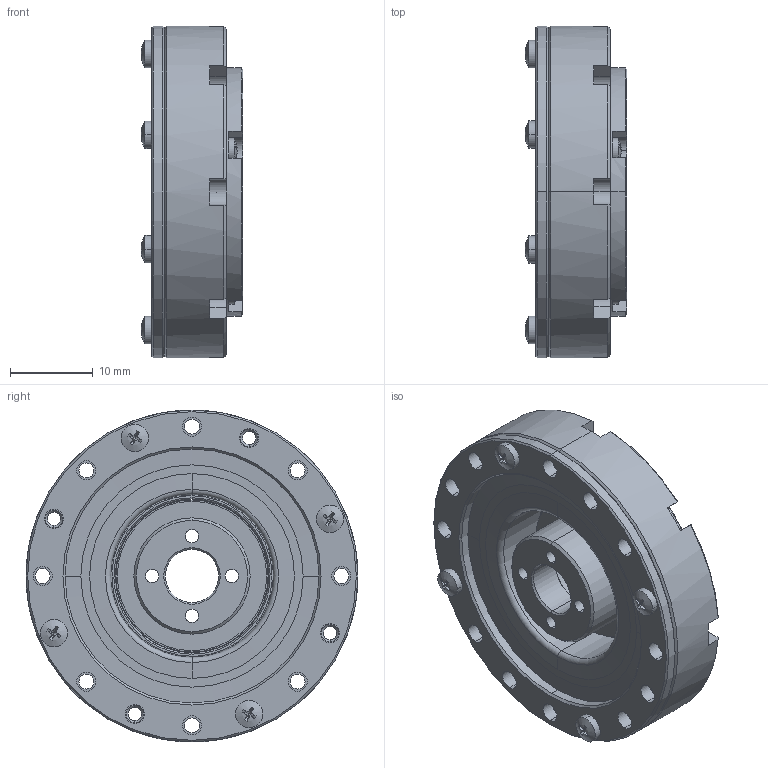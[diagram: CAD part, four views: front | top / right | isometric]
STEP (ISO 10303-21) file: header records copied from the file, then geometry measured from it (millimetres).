
FILE_DESCRIPTION (( 'STEP AP214' ), '1' );
FILE_NAME ('SHD-8-50-2SH-SP-B5000.STEP', '2024-09-10T03:06:35', ( '微软用户' ), ( '微软中国' ), 'SwSTEP 2.0', 'SolidWorks 2021', '' );
FILE_SCHEMA (( 'AUTOMOTIVE_DESIGN' ));
Length unit declared in the file: millimetre
Products named in the file (1): SHD-8-50-2SH-SP-B5000
Bounding box: 12.29 x 40 x 40 mm (x, y, z)
Volume: 8153.6 mm3; surface area: 13705.1 mm2
Topology: 37 solids, 37 shells, 792 faces, 2025 edges, 1242 vertices
Faces by surface type: cylinder 321, plane 228, cone 149, bspline 84, torus 10
Entity records: 26174 total; most frequent: CARTESIAN_POINT 6721, DIRECTION 4195, ORIENTED_EDGE 3846, EDGE_CURVE 1923, AXIS2_PLACEMENT_3D 1754, VERTEX_POINT 1242, CIRCLE 1045, EDGE_LOOP 945
